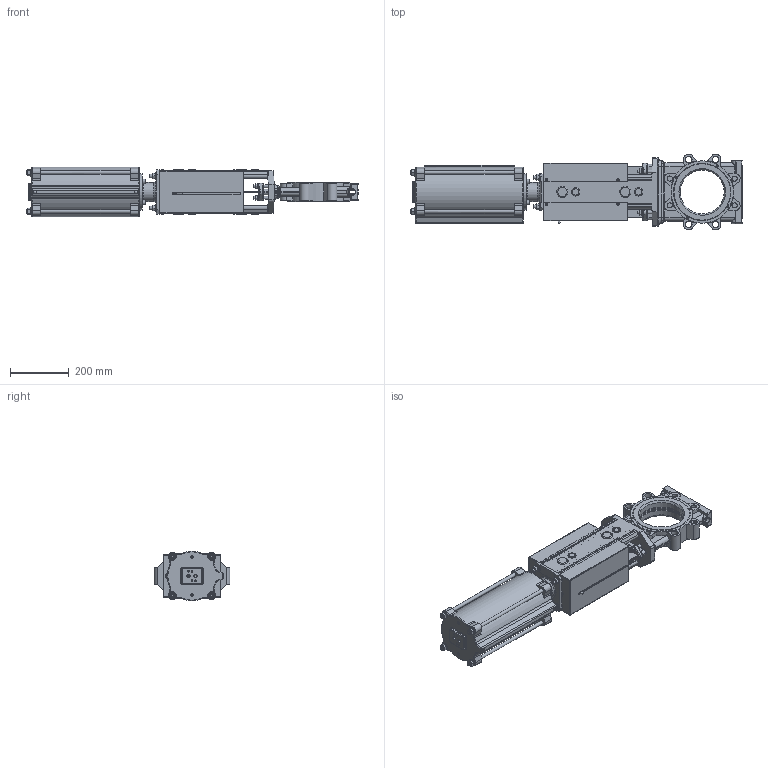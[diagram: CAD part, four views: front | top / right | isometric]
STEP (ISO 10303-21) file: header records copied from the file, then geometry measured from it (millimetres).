
FILE_DESCRIPTION(/* description */ (''),/* implementation_level */ '2;1');
FILE_NAME(/* name */ 'F:\3D-block färdiga för export\SLV-SLF\DN 150\SLV-DN150-PN10-FRSC160-215 .stp',/* time_stamp */ '2020-12-16T10:04:14+01:00',/* author */ ('MATZET'),/* organization */ (''),/* preprocessor_version */ 'ST-DEVELOPER v18',/* originating_system */ 'Autodesk Inventor 2020',/* authorisation */ '');
FILE_SCHEMA (('AUTOMOTIVE_DESIGN { 1 0 10303 214 3 1 1 }'));
Products named in the file (1): SLV-DN150-PN10-FRSC160-215 
Bounding box: 1135 x 258.62 x 170 mm (x, y, z)
Volume: 6730091.9 mm3; surface area: 2048322.6 mm2
Topology: 1 solids, 1 shells, 2480 faces, 6450 edges, 4061 vertices
Faces by surface type: plane 961, cylinder 658, bspline 270, cone 267, torus 249, sphere 75
Full cylindrical faces by diameter (mm): 3 x7, 3.5 x8, 3.6 x8, 4 x6, 4.134 x12, 4.5 x4, 4.917 x4, 6 x1, 6.75 x8, 7 x8, 8 x2, 8.376 x2, 8.88 x1, 9.5 x4, 10 x23, 10.5 x4, 11.445 x2, 12 x26, 13 x13, 14 x4, 15 x5, 16 x6, 17.5 x8, 17.7 x1, 18 x8, 18.376 x1, 19.145 x2, 20 x5, 20.5 x1, 23 x4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
Entity records: 94530 total; most frequent: CARTESIAN_POINT 32256, DIRECTION 12950, ORIENTED_EDGE 12758, EDGE_CURVE 6379, AXIS2_PLACEMENT_3D 5374, VERTEX_POINT 4061, CIRCLE 2859, EDGE_LOOP 2774
